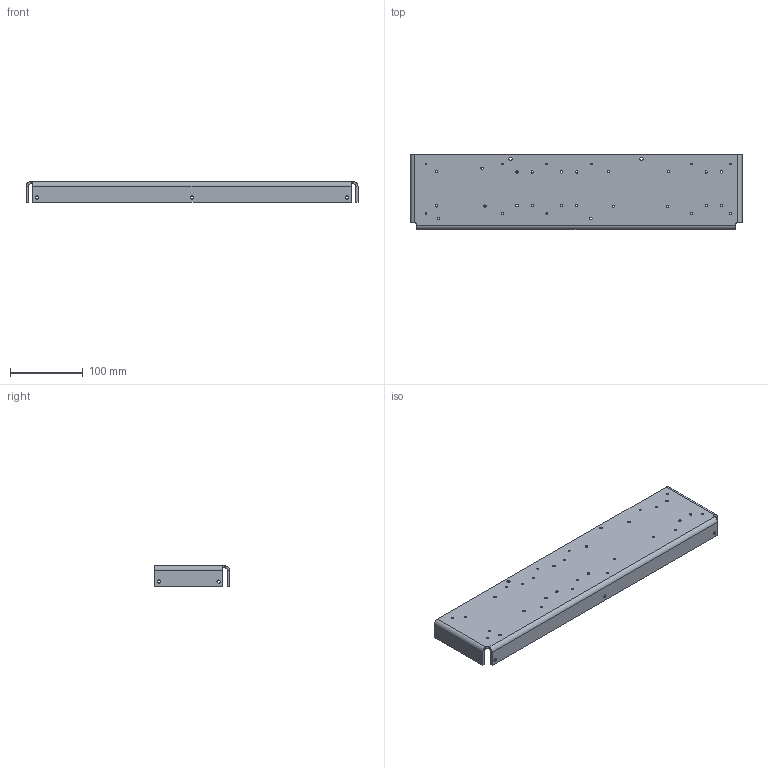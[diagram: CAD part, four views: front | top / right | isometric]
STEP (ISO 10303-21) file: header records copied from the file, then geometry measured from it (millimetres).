
FILE_DESCRIPTION(/* description */ (''),/* implementation_level */ '2;1');
FILE_NAME(/* name */ 'C:/Users/anton/Documents/Kerbal Space Program/Kerbal_Control_Panel/KCP2/CAD/ForManufacture/casing/Panel_DodgePlate_v95_Folded.step',/* time_stamp */ '2020-11-15T14:29:26-08:00',/* author */ (''),/* organization */ (''),/* preprocessor_version */ 'ST-DEVELOPER v18.1',/* originating_system */ 'Autodesk Translation Framework v9.3.0.1241',/* authorisation */ '');
FILE_SCHEMA (('AUTOMOTIVE_DESIGN { 1 0 10303 214 3 1 1 }'));
Length unit declared in the file: millimetre
Products named in the file (1): Dodge Plate
Bounding box: 456 x 103 x 28 mm (x, y, z)
Volume: 181978.6 mm3; surface area: 126597.2 mm2
Topology: 1 solids, 1 shells, 109 faces, 266 edges, 159 vertices
Faces by surface type: cylinder 50, cone 31, plane 28
Full cylindrical faces by diameter (mm): 2.529 x11, 3.264 x20, 3.4 x2, 4.496 x9
Entity records: 3444 total; most frequent: DIRECTION 617, CARTESIAN_POINT 535, ORIENTED_EDGE 532, EDGE_CURVE 266, AXIS2_PLACEMENT_3D 241, EDGE_LOOP 193, VERTEX_POINT 159, LINE 135
